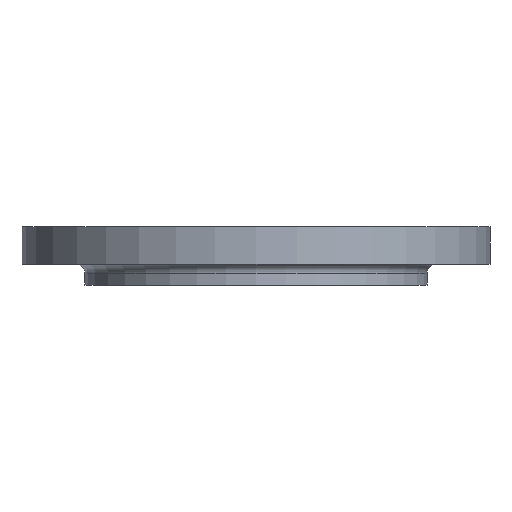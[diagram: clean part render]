
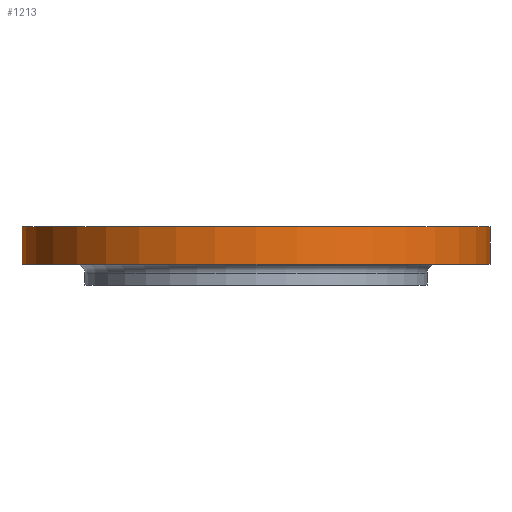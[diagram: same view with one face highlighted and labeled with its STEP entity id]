
A CAD part, front view. The second image highlights one B-rep face of the part: STEP entity #1213.
In plain terms, the highlighted cylindrical face has radius 290 mm (diameter 580 mm), a partial arc.
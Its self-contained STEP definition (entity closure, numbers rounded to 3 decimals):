
#75 = DIRECTION ( 'NONE',  ( 0., 0., 1. ) ) ;
#76 = CARTESIAN_POINT ( 'NONE',  ( -290., 0., -135. ) ) ;
#77 = LINE ( 'NONE', #76, #219 ) ;
#88 = DIRECTION ( 'NONE',  ( 1., 0., 0. ) ) ;
#90 = DIRECTION ( 'NONE',  ( 0., 0., 1. ) ) ;
#93 = CARTESIAN_POINT ( 'NONE',  ( 0., 0., -46. ) ) ;
#100 = CIRCLE ( 'NONE', #1098, 290. ) ;
#219 = VECTOR ( 'NONE', #75, 1000. ) ;
#354 = EDGE_CURVE ( 'NONE', #1037, #998, #402, .T. ) ;
#378 = EDGE_CURVE ( 'NONE', #1037, #726, #77, .T. ) ;
#402 = CIRCLE ( 'NONE', #974, 290. ) ;
#513 = VECTOR ( 'NONE', #1377, 1000. ) ;
#541 = EDGE_LOOP ( 'NONE', ( #585, #586, #587, #590 ) ) ;
#585 = ORIENTED_EDGE ( 'NONE', *, *, #378, .F. ) ;
#586 = ORIENTED_EDGE ( 'NONE', *, *, #354, .T. ) ;
#587 = ORIENTED_EDGE ( 'NONE', *, *, #761, .T. ) ;
#590 = ORIENTED_EDGE ( 'NONE', *, *, #1215, .F. ) ;
#726 = VERTEX_POINT ( 'NONE', #1383 ) ;
#761 = EDGE_CURVE ( 'NONE', #998, #938, #1379, .T. ) ;
#938 = VERTEX_POINT ( 'NONE', #1302 ) ;
#974 = AXIS2_PLACEMENT_3D ( 'NONE', #93, #90, #88 ) ;
#998 = VERTEX_POINT ( 'NONE', #1246 ) ;
#1037 = VERTEX_POINT ( 'NONE', #1227 ) ;
#1049 = DIRECTION ( 'NONE',  ( 1., 0., 0. ) ) ;
#1051 = DIRECTION ( 'NONE',  ( 0., 0., 1. ) ) ;
#1052 = CARTESIAN_POINT ( 'NONE',  ( 0., 0., 0. ) ) ;
#1054 = DIRECTION ( 'NONE',  ( 1., 0., 0. ) ) ;
#1056 = DIRECTION ( 'NONE',  ( 0., 0., 1. ) ) ;
#1057 = CARTESIAN_POINT ( 'NONE',  ( 0., 0., -135. ) ) ;
#1059 = CYLINDRICAL_SURFACE ( 'NONE', #1132, 290. ) ;
#1060 = FACE_OUTER_BOUND ( 'NONE', #541, .T. ) ;
#1098 = AXIS2_PLACEMENT_3D ( 'NONE', #1052, #1051, #1049 ) ;
#1132 = AXIS2_PLACEMENT_3D ( 'NONE', #1057, #1056, #1054 ) ;
#1213 = ADVANCED_FACE ( 'NONE', ( #1060 ), #1059, .T. ) ;
#1215 = EDGE_CURVE ( 'NONE', #726, #938, #100, .T. ) ;
#1227 = CARTESIAN_POINT ( 'NONE',  ( -290., 0., -46. ) ) ;
#1246 = CARTESIAN_POINT ( 'NONE',  ( 290., 0., -46. ) ) ;
#1302 = CARTESIAN_POINT ( 'NONE',  ( 290., 0., 0. ) ) ;
#1377 = DIRECTION ( 'NONE',  ( 0., 0., 1. ) ) ;
#1378 = CARTESIAN_POINT ( 'NONE',  ( 290., 0., -135. ) ) ;
#1379 = LINE ( 'NONE', #1378, #513 ) ;
#1383 = CARTESIAN_POINT ( 'NONE',  ( -290., 0., 0. ) ) ;
